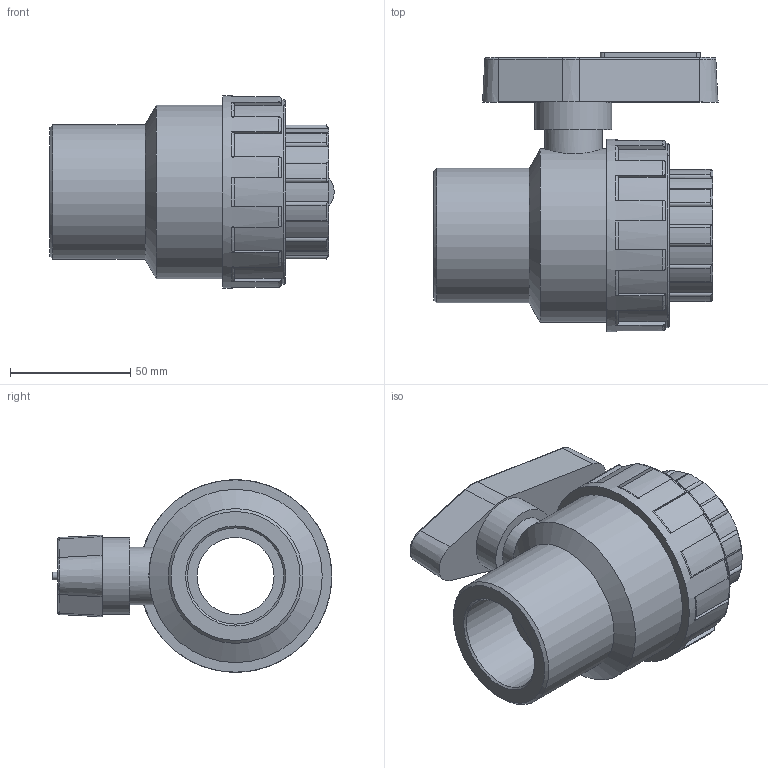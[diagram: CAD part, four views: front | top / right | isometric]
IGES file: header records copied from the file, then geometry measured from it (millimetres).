
Global section: file name: 11350040.ipt; native system: Autodesk Inventor 2015; preprocessor: unknown; author: KIM; date: 20171207.170430; units: millimetre
Bounding box: 118.14 x 116.22 x 80 mm (x, y, z)
Volume: 331381.6 mm3; surface area: 54604.2 mm2
Topology: 1 solids, 1 shells, 166 faces, 447 edges, 290 vertices
Faces by surface type: plane 64, cylinder 52, revolution 34, cone 16
Full cylindrical faces by diameter (mm): 24 x1, 32 x1, 56 x1, 72 x1, 76.8 x1, 80 x1
